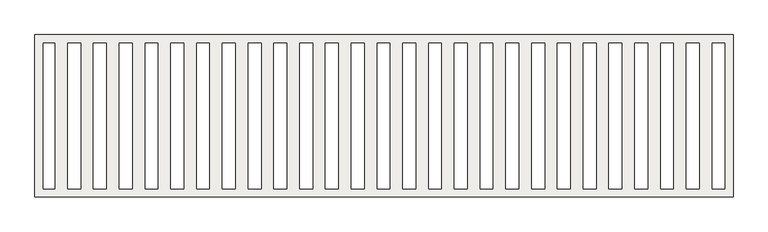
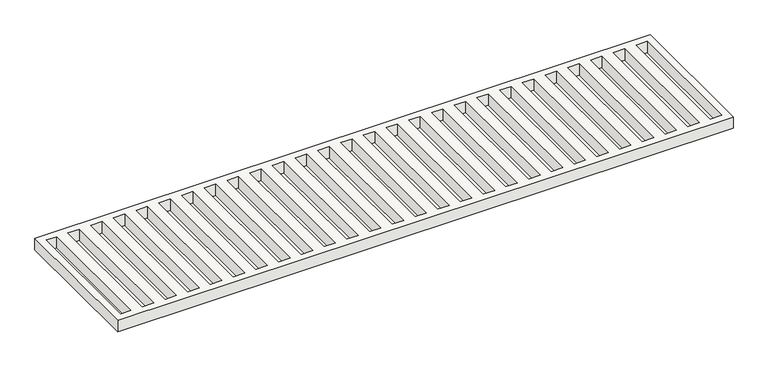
"""IFC4 building model written with IfcOpenShell, lengths in millimetres: slab geometry, REGUERA_METÁLICA1 : REGUERA_METÁLICA-01."""

from ifc_helpers import new_model, si_unit, frame, origin, place, context, project, spatial, polyline, outline, extrude, source, transform, mapped, element, save


def slab_bfcec917(model_context):
    return source(origin(), model_context, "Body", "SweptSolid", [
        extrude(outline(polyline([(15325.5075103, -9938.8292802), (17905.5256323, -9938.8292802), (17905.5256323, -10538.7297081), (15325.5075103, -10538.7297081), (15325.5075103, -9938.8292802)]), holes=[polyline([(15355.5072111, -9968.8540881), (15355.5072111, -10508.807458), (15399.0255832, -10508.807458), (15399.0255832, -9968.8540881), (15355.5072111, -9968.8540881)]), polyline([(15446.6505832, -9968.8540881), (15446.6505832, -10508.8146565), (15494.2755832, -10508.8146565), (15494.2755832, -9968.8540881), (15446.6505832, -9968.8540881)]), polyline([(15541.9005832, -9968.8540881), (15541.9005832, -10508.8146565), (15589.5255832, -10508.8146565), (15589.5255832, -9968.8540881), (15541.9005832, -9968.8540881)]), polyline([(15637.1505832, -9968.8540881), (15637.1505832, -10508.8146565), (15684.7755832, -10508.8146565), (15684.7755832, -9968.8540881), (15637.1505832, -9968.8540881)]), polyline([(15732.4005832, -9968.8540881), (15732.4005832, -10508.8146565), (15780.0255832, -10508.8146565), (15780.0255832, -9968.8540881), (15732.4005832, -9968.8540881)]), polyline([(15827.6505832, -9968.8540881), (15827.6505832, -10508.8146565), (15875.2755832, -10508.8146565), (15875.2755832, -9968.8540881), (15827.6505832, -9968.8540881)]), polyline([(15922.9005832, -9968.8540881), (15922.9005832, -10508.8146565), (15970.5255832, -10508.8146565), (15970.5255832, -9968.8540881), (15922.9005832, -9968.8540881)]), polyline([(16018.1505832, -9968.8540881), (16018.1505832, -10508.8146565), (16065.7755832, -10508.8146565), (16065.7755832, -9968.8540881), (16018.1505832, -9968.8540881)]), polyline([(16113.4005832, -9968.8540881), (16113.4005832, -10508.8146565), (16161.0255832, -10508.8146565), (16161.0255832, -9968.8540881), (16113.4005832, -9968.8540881)]), polyline([(16208.6505832, -9968.8540881), (16208.6505832, -10508.8146565), (16256.2755832, -10508.8146565), (16256.2755832, -9968.8540881), (16208.6505832, -9968.8540881)]), polyline([(16303.9005832, -9968.8540881), (16303.9005832, -10508.8146565), (16351.5255832, -10508.8146565), (16351.5255832, -9968.8540881), (16303.9005832, -9968.8540881)]), polyline([(16399.1505832, -9968.8540881), (16399.1505832, -10508.8146565), (16446.7755832, -10508.8146565), (16446.7755832, -9968.8540881), (16399.1505832, -9968.8540881)]), polyline([(16494.4005832, -9968.8540881), (16494.4005832, -10508.8146565), (16542.0255832, -10508.8146565), (16542.0255832, -9968.8540881), (16494.4005832, -9968.8540881)]), polyline([(16589.6505832, -9968.8540881), (16589.6505832, -10508.8146565), (16637.2755832, -10508.8146565), (16637.2755832, -9968.8540881), (16589.6505832, -9968.8540881)]), polyline([(16684.9005832, -9968.8540881), (16684.9005832, -10508.8146565), (16732.5255832, -10508.8146565), (16732.5255832, -9968.8540881), (16684.9005832, -9968.8540881)]), polyline([(16780.1505832, -9968.8540881), (16780.1505832, -10508.8146565), (16827.7755832, -10508.8146565), (16827.7755832, -9968.8540881), (16780.1505832, -9968.8540881)]), polyline([(16875.4005832, -9968.8540881), (16875.4005832, -10508.8146565), (16923.0255832, -10508.8146565), (16923.0255832, -9968.8540881), (16875.4005832, -9968.8540881)]), polyline([(16970.6505832, -9968.8540881), (16970.6505832, -10508.8146565), (17018.2755832, -10508.8146565), (17018.2755832, -9968.8540881), (16970.6505832, -9968.8540881)]), polyline([(17065.9005832, -9968.8540881), (17065.9005832, -10508.8146565), (17113.5255832, -10508.8146565), (17113.5255832, -9968.8540881), (17065.9005832, -9968.8540881)]), polyline([(17161.1505832, -9968.8540881), (17161.1505832, -10508.8146565), (17208.7755832, -10508.8146565), (17208.7755832, -9968.8540881), (17161.1505832, -9968.8540881)]), polyline([(17256.4005832, -9968.8540881), (17256.4005832, -10508.8146565), (17304.0255832, -10508.8146565), (17304.0255832, -9968.8540881), (17256.4005832, -9968.8540881)]), polyline([(17351.6505832, -9968.8540881), (17351.6505832, -10508.8146565), (17399.2755832, -10508.8146565), (17399.2755832, -9968.8540881), (17351.6505832, -9968.8540881)]), polyline([(17446.9005832, -9968.8540881), (17446.9005832, -10508.8146565), (17494.5255832, -10508.8146565), (17494.5255832, -9968.8540881), (17446.9005832, -9968.8540881)]), polyline([(17542.1505832, -9968.8540881), (17542.1505832, -10508.8146565), (17589.7755832, -10508.8146565), (17589.7755832, -9968.8540881), (17542.1505832, -9968.8540881)]), polyline([(17637.4005832, -9968.8540881), (17637.4005832, -10508.8146565), (17685.0255832, -10508.8146565), (17685.0255832, -9968.8540881), (17637.4005832, -9968.8540881)]), polyline([(17732.6505832, -9968.8540881), (17732.6505832, -10508.8146565), (17780.2755832, -10508.8146565), (17780.2755832, -9968.8540881), (17732.6505832, -9968.8540881)]), polyline([(17827.9005832, -9968.8540881), (17827.9005832, -10508.8146565), (17875.5255832, -10508.8146565), (17875.5255832, -9968.8540881), (17827.9005832, -9968.8540881)])]), frame((0.0, 0.0, 1450.0), z_axis=(0.0, 0.0, 1.0), x_axis=(1.0, 0.0, 0.0)), (0.0, 0.0, 1.0), 50.0),
    ])


if __name__ == "__main__":
    model = new_model("IFC4")
    model_context = context("Model", 3, world=origin())
    ifc_project = project(units=[si_unit("LENGTHUNIT", "METRE", prefix="MILLI")], contexts=[model_context])
    site = spatial("IfcSite", under=ifc_project)
    building = spatial("IfcBuilding", under=site)
    placement = place(None, origin())
    slab_shape = slab_bfcec917(model_context)
    element("IfcSlab", 1, ObjectType="REGUERA_METÁLICA1 : REGUERA_METÁLICA-01", at=placement, inside=building, context=model_context, shape_type="MappedRepresentation", body=[
        mapped(slab_shape, transform((0.0, 0.0, 0.0), x_axis=(1.0, 0.0, 0.0), y_axis=(0.0, 1.0, 0.0), z_axis=(0.0, 0.0, 1.0))),
    ])
    save(model, "model.ifc")
